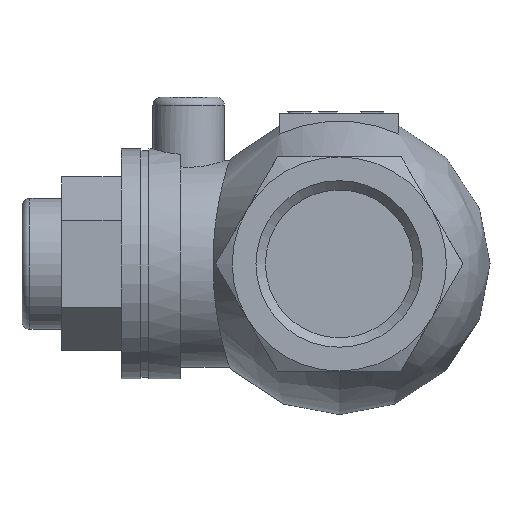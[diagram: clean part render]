
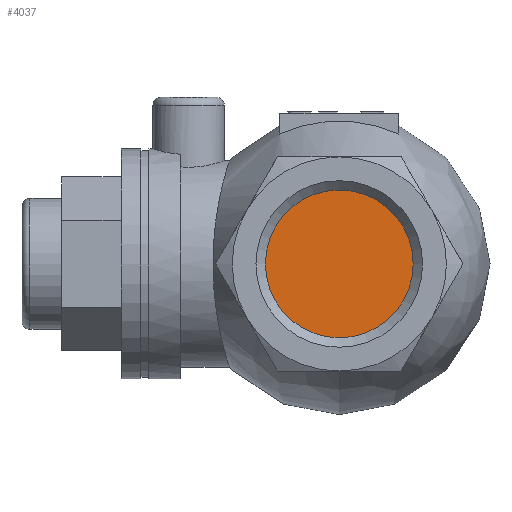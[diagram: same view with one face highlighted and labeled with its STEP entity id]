
A CAD part, left-side view. The second image highlights one B-rep face of the part: STEP entity #4037.
In plain terms, the highlighted planar face has unit normal (-1, 0, 0).
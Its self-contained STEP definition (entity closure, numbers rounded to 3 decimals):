
#179=CIRCLE('',#4304,9.316);
#180=CIRCLE('',#4305,9.316);
#1166=FACE_OUTER_BOUND('',#1415,.T.);
#1415=EDGE_LOOP('',(#3536,#3537));
#1905=VERTEX_POINT('',#7257);
#1906=VERTEX_POINT('',#7259);
#2464=EDGE_CURVE('',#1905,#1906,#179,.T.);
#2465=EDGE_CURVE('',#1906,#1905,#180,.T.);
#3536=ORIENTED_EDGE('',*,*,#2465,.F.);
#3537=ORIENTED_EDGE('',*,*,#2464,.F.);
#3809=PLANE('',#4306);
#4037=ADVANCED_FACE('',(#1166),#3809,.F.);
#4304=AXIS2_PLACEMENT_3D('',#7260,#5123,#5124);
#4305=AXIS2_PLACEMENT_3D('',#7261,#5125,#5126);
#4306=AXIS2_PLACEMENT_3D('',#7262,#5127,#5128);
#5123=DIRECTION('center_axis',(1.,0.,0.));
#5124=DIRECTION('ref_axis',(0.,0.,-1.));
#5125=DIRECTION('center_axis',(1.,0.,0.));
#5126=DIRECTION('ref_axis',(0.,0.,-1.));
#5127=DIRECTION('center_axis',(1.,0.,0.));
#5128=DIRECTION('ref_axis',(0.,0.,-1.));
#7257=CARTESIAN_POINT('',(-17.,0.,9.316));
#7259=CARTESIAN_POINT('',(-17.,0.,-9.316));
#7260=CARTESIAN_POINT('Origin',(-17.,0.,0.));
#7261=CARTESIAN_POINT('Origin',(-17.,0.,0.));
#7262=CARTESIAN_POINT('Origin',(-17.,0.,0.));
